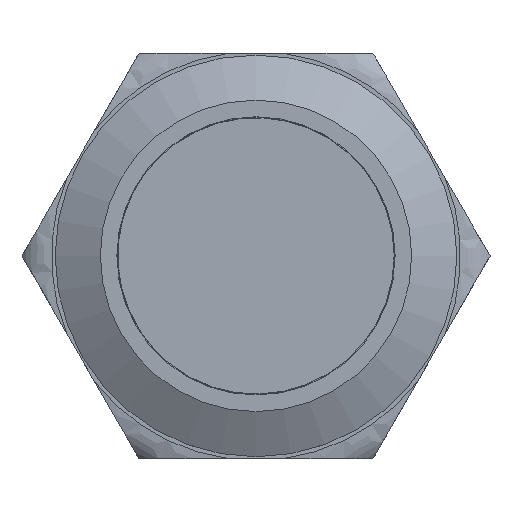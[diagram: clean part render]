
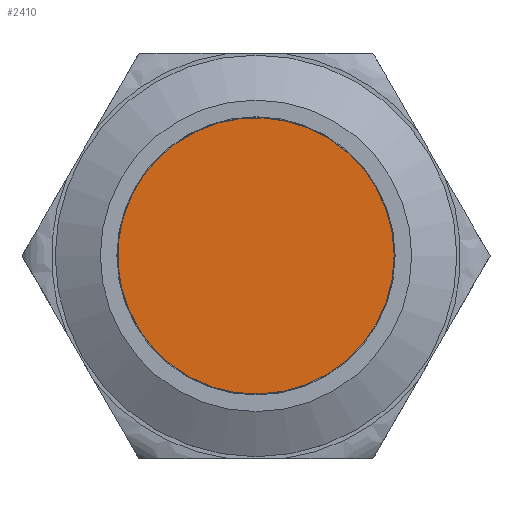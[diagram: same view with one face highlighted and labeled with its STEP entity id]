
A CAD part, top view. The second image highlights one B-rep face of the part: STEP entity #2410.
In plain terms, the highlighted planar face has unit normal (0, 0, 1).
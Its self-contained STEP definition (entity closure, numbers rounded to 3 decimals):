
#1940=PLANE('',#6070);
#2181=CIRCLE('',#6069,7.5);
#2410=ADVANCED_FACE('',(#2722),#1940,.F.);
#2722=FACE_OUTER_BOUND('',#3010,.T.);
#3010=EDGE_LOOP('',(#4071));
#4071=ORIENTED_EDGE('',*,*,#5473,.T.);
#4852=VERTEX_POINT('',#10172);
#5473=EDGE_CURVE('',#4852,#4852,#2181,.T.);
#6069=AXIS2_PLACEMENT_3D('',#10171,#6930,#6931);
#6070=AXIS2_PLACEMENT_3D('',#10173,#6932,#6933);
#6930=DIRECTION('',(0.,0.,1.));
#6931=DIRECTION('',(-0.924,-0.383,0.));
#6932=DIRECTION('',(0.,0.,-1.));
#6933=DIRECTION('',(-0.924,-0.383,0.));
#10171=CARTESIAN_POINT('',(0.,0.,11.3));
#10172=CARTESIAN_POINT('',(-6.928,-2.873,11.3));
#10173=CARTESIAN_POINT('',(0.,0.,11.3));
